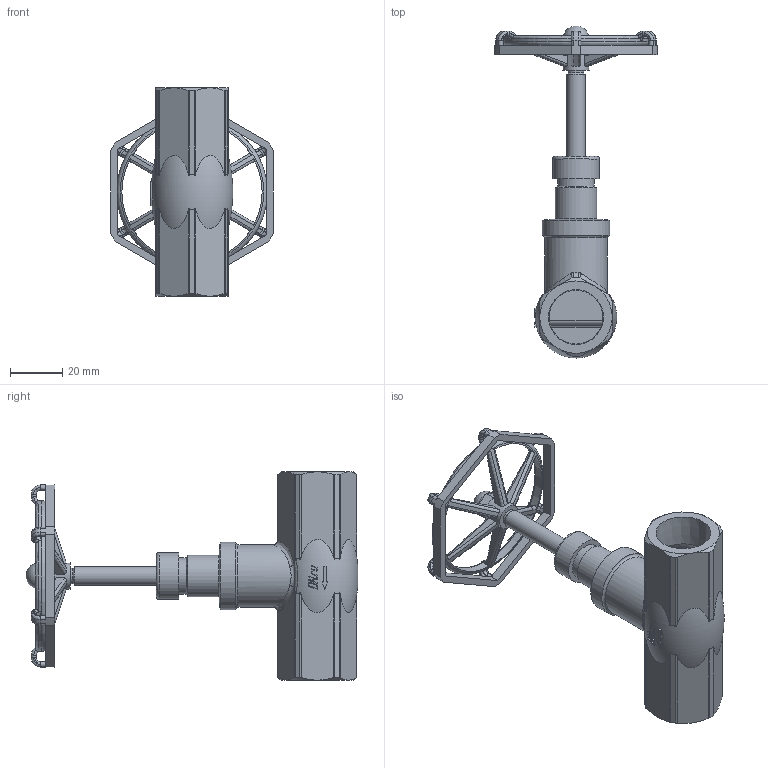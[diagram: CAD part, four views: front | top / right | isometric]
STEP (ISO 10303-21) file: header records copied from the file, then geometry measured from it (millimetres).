
FILE_DESCRIPTION(('STEP AP242'), '1');
FILE_NAME('Äó25', '', ('UNSPECIFIED'), ('UNSPECIFIED'), 'C3D Converter', 'C3D Toolkit', '');
FILE_SCHEMA(('AP242_MANAGED_MODEL_BASED_3D_ENGINEERING_MIM_LF { 1 0 10303 442 1 1 4 }'));
Length unit declared in the file: millimetre
Products named in the file (1): VSO3131M-1W-T-S
Bounding box: 62.35 x 127.65 x 80 mm (x, y, z)
Volume: 41298.2 mm3; surface area: 31083.1 mm2
Topology: 1 solids, 2 shells, 490 faces, 1271 edges, 783 vertices
Faces by surface type: plane 175, bspline 96, cylinder 88, extrusion 57, torus 43, cone 28, revolution 2, sphere 1
Full cylindrical faces by diameter (mm): 6 x2, 7 x2, 8.871 x2, 9.728 x1, 10 x2, 13.137 x1, 14 x1, 16 x1, 18 x2, 24 x1, 25 x1, 26 x1, 58 x1
Entity records: 30029 total; most frequent: CARTESIAN_POINT 16824, ORIENTED_EDGE 2456, DIRECTION 1722, EDGE_CURVE 1228, VERTEX_POINT 782, AXIS2_PLACEMENT_3D 661, B_SPLINE_CURVE_WITH_KNOTS 611, EDGE_LOOP 558
